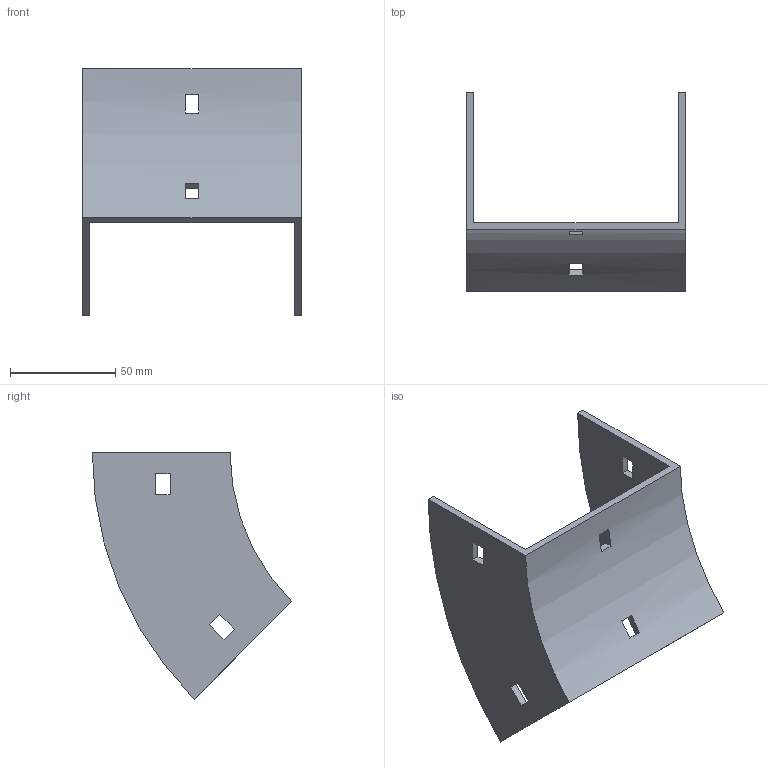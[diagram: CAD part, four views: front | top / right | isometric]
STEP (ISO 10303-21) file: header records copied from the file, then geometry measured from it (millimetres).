
FILE_DESCRIPTION (( 'STEP AP214' ), '1' );
FILE_NAME ('34B1H100.step', '2025-02-21T09:28:48', ( '' ), ( '' ), 'SwSTEP 2.0', 'SolidWorks 2023', '' );
FILE_SCHEMA (( 'AUTOMOTIVE_DESIGN' ));
Length unit declared in the file: millimetre
Products named in the file (1): 34B1H100
Bounding box: 104 x 94.79 x 117.03 mm (x, y, z)
Volume: 73539.7 mm3; surface area: 45215 mm2
Topology: 1 solids, 1 shells, 34 faces, 96 edges, 64 vertices
Faces by surface type: plane 30, cylinder 4
Entity records: 1143 total; most frequent: CARTESIAN_POINT 195, ORIENTED_EDGE 192, DIRECTION 182, EDGE_CURVE 96, LINE 80, VECTOR 80, VERTEX_POINT 64, AXIS2_PLACEMENT_3D 51
